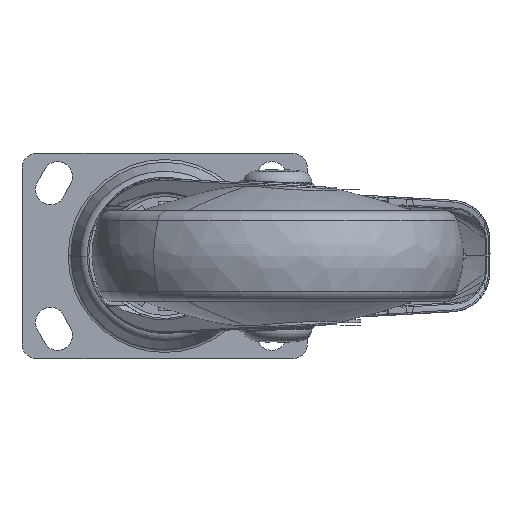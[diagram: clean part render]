
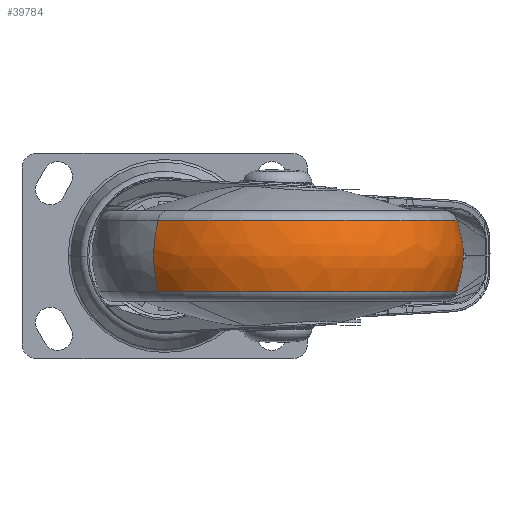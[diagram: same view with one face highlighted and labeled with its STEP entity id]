
A CAD part, front view. The second image highlights one B-rep face of the part: STEP entity #39784.
In plain terms, the highlighted free-form (B-spline) face has degree [3, 3] with [7, 4] control points.
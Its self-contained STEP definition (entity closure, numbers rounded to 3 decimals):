
#39610=CARTESIAN_POINT('',(38.,-82.3,-12.017));
#39611=DIRECTION('',(0.,0.,-1.));
#39612=DIRECTION('',(0.667,0.745,0.));
#39613=AXIS2_PLACEMENT_3D('',#39610,#39611,#39612);
#39615=CARTESIAN_POINT('',(18.999,-103.542,0.));
#39616=DIRECTION('',(0.745,-0.667,0.));
#39617=DIRECTION('',(-0.624,-0.697,0.353));
#39618=AXIS2_PLACEMENT_3D('',#39615,#39616,#39617);
#39620=CARTESIAN_POINT('',(38.,-82.3,12.017));
#39621=DIRECTION('',(0.,0.,-1.));
#39622=DIRECTION('',(0.667,0.745,0.));
#39623=AXIS2_PLACEMENT_3D('',#39620,#39621,#39622);
#39625=CARTESIAN_POINT('',(57.001,-61.058,0.));
#39626=DIRECTION('',(-0.745,0.667,0.));
#39627=DIRECTION('',(0.624,0.697,0.353));
#39628=AXIS2_PLACEMENT_3D('',#39625,#39626,#39627);
#39679=CARTESIAN_POINT('',(78.205,-37.352,
-12.017));
#39680=CARTESIAN_POINT('',(-2.205,-127.248,
-12.017));
#39681=VERTEX_POINT('',#39679);
#39682=VERTEX_POINT('',#39680);
#39683=CARTESIAN_POINT('',(78.205,-37.352,
12.017));
#39684=CARTESIAN_POINT('',(-2.205,-127.248,
12.017));
#39685=VERTEX_POINT('',#39683);
#39686=VERTEX_POINT('',#39684);
#39746=CARTESIAN_POINT('',(-4.822,-124.511,
-12.476));
#39747=CARTESIAN_POINT('',(-7.101,-126.757,
-4.361));
#39748=CARTESIAN_POINT('',(-7.101,-126.757,
4.361));
#39749=CARTESIAN_POINT('',(-4.822,-124.511,
12.476));
#39750=CARTESIAN_POINT('',(21.154,-150.863,
-12.476));
#39751=CARTESIAN_POINT('',(20.258,-154.513,
-4.361));
#39752=CARTESIAN_POINT('',(20.258,-154.513,
4.361));
#39753=CARTESIAN_POINT('',(21.154,-150.863,
12.476));
#39754=CARTESIAN_POINT('',(58.147,-149.967,
-12.476));
#39755=CARTESIAN_POINT('',(59.219,-153.568,
-4.361));
#39756=CARTESIAN_POINT('',(59.219,-153.568,
4.361));
#39757=CARTESIAN_POINT('',(58.147,-149.967,
12.476));
#39758=CARTESIAN_POINT('',(82.816,-122.387,
-12.476));
#39759=CARTESIAN_POINT('',(85.202,-124.521,
-4.361));
#39760=CARTESIAN_POINT('',(85.202,-124.521,
4.361));
#39761=CARTESIAN_POINT('',(82.816,-122.387,
12.476));
#39762=CARTESIAN_POINT('',(107.485,-94.807,
-12.476));
#39763=CARTESIAN_POINT('',(111.184,-95.473,
-4.361));
#39764=CARTESIAN_POINT('',(111.184,-95.473,
4.361));
#39765=CARTESIAN_POINT('',(107.485,-94.807,
12.476));
#39766=CARTESIAN_POINT('',(104.268,-57.944,
-12.476));
#39767=CARTESIAN_POINT('',(107.795,-56.648,
-4.361));
#39768=CARTESIAN_POINT('',(107.795,-56.648,
4.361));
#39769=CARTESIAN_POINT('',(104.268,-57.944,
12.476));
#39770=CARTESIAN_POINT('',(75.194,-35.055,
-12.476));
#39771=CARTESIAN_POINT('',(77.174,-32.541,
-4.361));
#39772=CARTESIAN_POINT('',(77.174,-32.541,
4.361));
#39773=CARTESIAN_POINT('',(75.194,-35.055,
12.476));
#39774=(BOUNDED_SURFACE()B_SPLINE_SURFACE(3,3,((#39746,#39747,#39748,#39749),(
#39750,#39751,#39752,#39753),(#39754,#39755,#39756,#39757),(#39758,#39759,
#39760,#39761),(#39762,#39763,#39764,#39765),(#39766,#39767,#39768,#39769),(
#39770,#39771,#39772,#39773)),.UNSPECIFIED.,.F.,.F.,.F.)B_SPLINE_SURFACE_WITH_KNOTS((4,3,4),(4,4),(0.,1.,2.),(0.,1.),.UNSPECIFIED.)GEOMETRIC_REPRESENTATION_ITEM()RATIONAL_B_SPLINE_SURFACE(((1.23,1.173,
1.173,1.23),(0.971,0.926,
0.926,0.971),(0.971,0.926,
0.926,0.971),(1.23,1.173,
1.173,1.23),(0.971,0.926,
0.926,0.971),(0.971,0.926,
0.926,0.971),(1.23,1.173,
1.173,1.23)))REPRESENTATION_ITEM('')SURFACE());
#39776=ORIENTED_EDGE('',*,*,#39775,.T.);
#39778=ORIENTED_EDGE('',*,*,#39777,.F.);
#39779=ORIENTED_EDGE('',*,*,#39729,.F.);
#39781=ORIENTED_EDGE('',*,*,#39780,.T.);
#39782=EDGE_LOOP('',(#39776,#39778,#39779,#39781));
#39783=FACE_OUTER_BOUND('',#39782,.F.);
#39614=CIRCLE('',#39613,60.305);
#39619=CIRCLE('',#39618,34.);
#39624=CIRCLE('',#39623,60.305);
#39629=CIRCLE('',#39628,34.);
#39729=EDGE_CURVE('',#39685,#39686,#39624,.T.);
#39775=EDGE_CURVE('',#39681,#39682,#39614,.T.);
#39777=EDGE_CURVE('',#39686,#39682,#39619,.T.);
#39780=EDGE_CURVE('',#39685,#39681,#39629,.T.);
#39784=ADVANCED_FACE('',(#39783),#39774,.T.);
